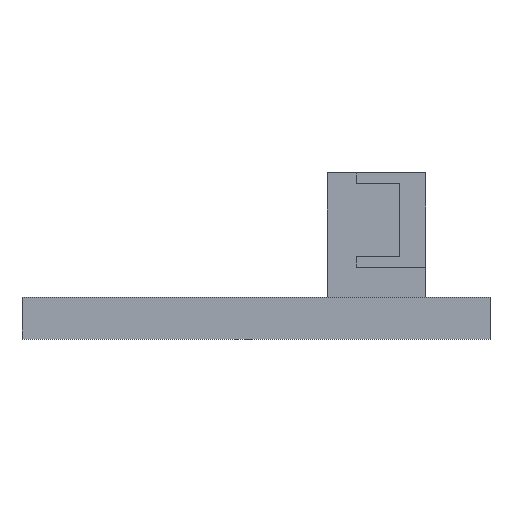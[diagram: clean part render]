
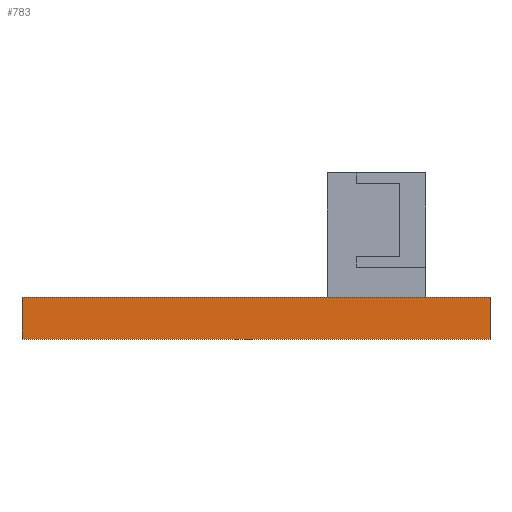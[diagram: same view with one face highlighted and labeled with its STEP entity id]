
A CAD part, front view. The second image highlights one B-rep face of the part: STEP entity #783.
In plain terms, the highlighted planar face has unit normal (0, -1, 0).
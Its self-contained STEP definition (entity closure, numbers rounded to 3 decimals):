
#22 = VERTEX_POINT('',#23);
#23 = CARTESIAN_POINT('',(-28.,12.,-21.));
#32 = PLANE('',#33);
#33 = AXIS2_PLACEMENT_3D('',#34,#35,#36);
#34 = CARTESIAN_POINT('',(-28.,12.,-26.));
#35 = DIRECTION('',(1.,0.,0.));
#36 = DIRECTION('',(0.,0.,1.));
#44 = PLANE('',#45);
#45 = AXIS2_PLACEMENT_3D('',#46,#47,#48);
#46 = CARTESIAN_POINT('',(-28.,12.,-21.));
#47 = DIRECTION('',(0.,0.,1.));
#48 = DIRECTION('',(1.,0.,0.));
#56 = EDGE_CURVE('',#57,#22,#59,.T.);
#57 = VERTEX_POINT('',#58);
#58 = CARTESIAN_POINT('',(-28.,12.,-26.));
#59 = SURFACE_CURVE('',#60,(#64,#71),.PCURVE_S1.);
#60 = LINE('',#61,#62);
#61 = CARTESIAN_POINT('',(-28.,12.,-26.));
#62 = VECTOR('',#63,1.);
#63 = DIRECTION('',(0.,0.,1.));
#64 = PCURVE('',#32,#65);
#65 = DEFINITIONAL_REPRESENTATION('',(#66),#70);
#66 = LINE('',#67,#68);
#67 = CARTESIAN_POINT('',(0.,0.));
#68 = VECTOR('',#69,1.);
#69 = DIRECTION('',(1.,0.));
#70 = ( GEOMETRIC_REPRESENTATION_CONTEXT(2) 
PARAMETRIC_REPRESENTATION_CONTEXT() REPRESENTATION_CONTEXT('2D SPACE',''
  ) );
#71 = PCURVE('',#72,#77);
#72 = PLANE('',#73);
#73 = AXIS2_PLACEMENT_3D('',#74,#75,#76);
#74 = CARTESIAN_POINT('',(-28.,12.,-26.));
#75 = DIRECTION('',(0.,1.,0.));
#76 = DIRECTION('',(0.,0.,1.));
#77 = DEFINITIONAL_REPRESENTATION('',(#78),#82);
#78 = LINE('',#79,#80);
#79 = CARTESIAN_POINT('',(0.,0.));
#80 = VECTOR('',#81,1.);
#81 = DIRECTION('',(1.,0.));
#82 = ( GEOMETRIC_REPRESENTATION_CONTEXT(2) 
PARAMETRIC_REPRESENTATION_CONTEXT() REPRESENTATION_CONTEXT('2D SPACE',''
  ) );
#100 = PLANE('',#101);
#101 = AXIS2_PLACEMENT_3D('',#102,#103,#104);
#102 = CARTESIAN_POINT('',(-28.,12.,-26.));
#103 = DIRECTION('',(0.,0.,1.));
#104 = DIRECTION('',(1.,0.,0.));
#271 = EDGE_CURVE('',#22,#272,#274,.T.);
#272 = VERTEX_POINT('',#273);
#273 = CARTESIAN_POINT('',(28.,12.,-21.));
#274 = SURFACE_CURVE('',#275,(#279,#286),.PCURVE_S1.);
#275 = LINE('',#276,#277);
#276 = CARTESIAN_POINT('',(-28.,12.,-21.));
#277 = VECTOR('',#278,1.);
#278 = DIRECTION('',(1.,0.,0.));
#279 = PCURVE('',#44,#280);
#280 = DEFINITIONAL_REPRESENTATION('',(#281),#285);
#281 = LINE('',#282,#283);
#282 = CARTESIAN_POINT('',(0.,0.));
#283 = VECTOR('',#284,1.);
#284 = DIRECTION('',(1.,0.));
#285 = ( GEOMETRIC_REPRESENTATION_CONTEXT(2) 
PARAMETRIC_REPRESENTATION_CONTEXT() REPRESENTATION_CONTEXT('2D SPACE',''
  ) );
#286 = PCURVE('',#72,#287);
#287 = DEFINITIONAL_REPRESENTATION('',(#288),#292);
#288 = LINE('',#289,#290);
#289 = CARTESIAN_POINT('',(5.,0.));
#290 = VECTOR('',#291,1.);
#291 = DIRECTION('',(0.,1.));
#292 = ( GEOMETRIC_REPRESENTATION_CONTEXT(2) 
PARAMETRIC_REPRESENTATION_CONTEXT() REPRESENTATION_CONTEXT('2D SPACE',''
  ) );
#310 = PLANE('',#311);
#311 = AXIS2_PLACEMENT_3D('',#312,#313,#314);
#312 = CARTESIAN_POINT('',(28.,12.,-26.));
#313 = DIRECTION('',(1.,0.,0.));
#314 = DIRECTION('',(0.,0.,1.));
#739 = EDGE_CURVE('',#57,#740,#742,.T.);
#740 = VERTEX_POINT('',#741);
#741 = CARTESIAN_POINT('',(28.,12.,-26.));
#742 = SURFACE_CURVE('',#743,(#747,#754),.PCURVE_S1.);
#743 = LINE('',#744,#745);
#744 = CARTESIAN_POINT('',(-28.,12.,-26.));
#745 = VECTOR('',#746,1.);
#746 = DIRECTION('',(1.,0.,0.));
#747 = PCURVE('',#100,#748);
#748 = DEFINITIONAL_REPRESENTATION('',(#749),#753);
#749 = LINE('',#750,#751);
#750 = CARTESIAN_POINT('',(0.,0.));
#751 = VECTOR('',#752,1.);
#752 = DIRECTION('',(1.,0.));
#753 = ( GEOMETRIC_REPRESENTATION_CONTEXT(2) 
PARAMETRIC_REPRESENTATION_CONTEXT() REPRESENTATION_CONTEXT('2D SPACE',''
  ) );
#754 = PCURVE('',#72,#755);
#755 = DEFINITIONAL_REPRESENTATION('',(#756),#760);
#756 = LINE('',#757,#758);
#757 = CARTESIAN_POINT('',(0.,0.));
#758 = VECTOR('',#759,1.);
#759 = DIRECTION('',(0.,1.));
#760 = ( GEOMETRIC_REPRESENTATION_CONTEXT(2) 
PARAMETRIC_REPRESENTATION_CONTEXT() REPRESENTATION_CONTEXT('2D SPACE',''
  ) );
#783 = ADVANCED_FACE('',(#784),#72,.F.);
#784 = FACE_BOUND('',#785,.F.);
#785 = EDGE_LOOP('',(#786,#787,#788,#789));
#786 = ORIENTED_EDGE('',*,*,#739,.F.);
#787 = ORIENTED_EDGE('',*,*,#56,.T.);
#788 = ORIENTED_EDGE('',*,*,#271,.T.);
#789 = ORIENTED_EDGE('',*,*,#790,.F.);
#790 = EDGE_CURVE('',#740,#272,#791,.T.);
#791 = SURFACE_CURVE('',#792,(#796,#803),.PCURVE_S1.);
#792 = LINE('',#793,#794);
#793 = CARTESIAN_POINT('',(28.,12.,-26.));
#794 = VECTOR('',#795,1.);
#795 = DIRECTION('',(0.,0.,1.));
#796 = PCURVE('',#72,#797);
#797 = DEFINITIONAL_REPRESENTATION('',(#798),#802);
#798 = LINE('',#799,#800);
#799 = CARTESIAN_POINT('',(0.,56.));
#800 = VECTOR('',#801,1.);
#801 = DIRECTION('',(1.,0.));
#802 = ( GEOMETRIC_REPRESENTATION_CONTEXT(2) 
PARAMETRIC_REPRESENTATION_CONTEXT() REPRESENTATION_CONTEXT('2D SPACE',''
  ) );
#803 = PCURVE('',#310,#804);
#804 = DEFINITIONAL_REPRESENTATION('',(#805),#809);
#805 = LINE('',#806,#807);
#806 = CARTESIAN_POINT('',(0.,0.));
#807 = VECTOR('',#808,1.);
#808 = DIRECTION('',(1.,0.));
#809 = ( GEOMETRIC_REPRESENTATION_CONTEXT(2) 
PARAMETRIC_REPRESENTATION_CONTEXT() REPRESENTATION_CONTEXT('2D SPACE',''
  ) );
